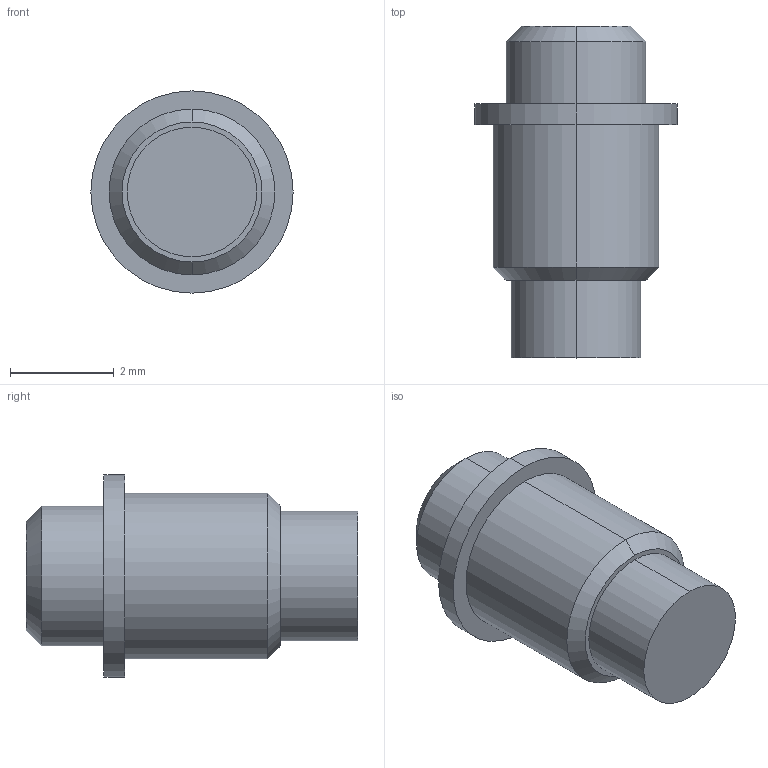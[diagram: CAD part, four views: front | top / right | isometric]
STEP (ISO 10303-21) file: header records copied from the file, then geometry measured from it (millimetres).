
FILE_DESCRIPTION((''),'2;1');
FILE_NAME('PRT0017','2023-05-26T16:08:49',('USER'),(''),'CREO PARAMETRIC BY PTC INC, 2020154','CREO PARAMETRIC BY PTC INC, 2020154','');
FILE_SCHEMA(('CONFIG_CONTROL_DESIGN'));
Length unit declared in the file: millimetre
Products named in the file (1): PRT0017
Bounding box: 3.9 x 6.4 x 3.9 mm (x, y, z)
Volume: 44.2 mm3; surface area: 80.3 mm2
Topology: 1 solids, 1 shells, 17 faces, 32 edges, 20 vertices
Faces by surface type: cylinder 8, plane 5, cone 4
Entity records: 472 total; most frequent: DIRECTION 86, CARTESIAN_POINT 69, ORIENTED_EDGE 64, AXIS2_PLACEMENT_3D 37, EDGE_CURVE 32, VERTEX_POINT 20, EDGE_LOOP 20, CIRCLE 20
